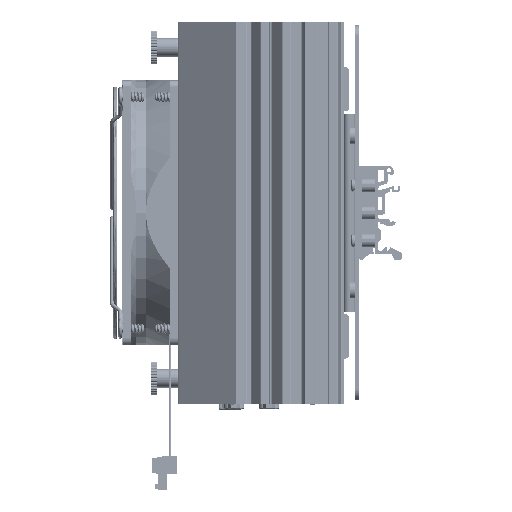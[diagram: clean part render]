
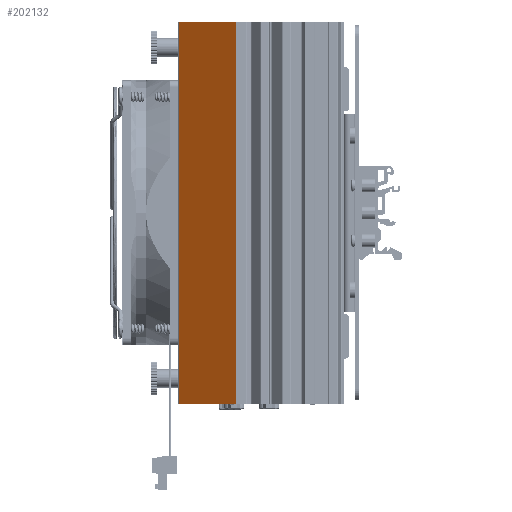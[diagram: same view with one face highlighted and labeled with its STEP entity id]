
A CAD part, left-side view. The second image highlights one B-rep face of the part: STEP entity #202132.
In plain terms, the highlighted planar face has unit normal (-0.819, 0.574, 0).
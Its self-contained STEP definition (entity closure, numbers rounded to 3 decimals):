
#1002 = LINE ( 'NONE', #2692, #369245 ) ;
#2692 = CARTESIAN_POINT ( 'NONE',  ( -120.999, 48.992, 86.5 ) ) ;
#26775 = ORIENTED_EDGE ( 'NONE', *, *, #227812, .T. ) ;
#44898 = CARTESIAN_POINT ( 'NONE',  ( -120.999, 48.992, -86.5 ) ) ;
#63354 = ORIENTED_EDGE ( 'NONE', *, *, #331432, .T. ) ;
#78958 = CARTESIAN_POINT ( 'NONE',  ( -122.022, 47.53, -86.5 ) ) ;
#118128 = LINE ( 'NONE', #78958, #574147 ) ;
#129599 = CARTESIAN_POINT ( 'NONE',  ( -102.947, 74.772, -86.5 ) ) ;
#166738 = AXIS2_PLACEMENT_3D ( 'NONE', #237492, #379377, #607727 ) ;
#175608 = DIRECTION ( 'NONE',  ( -0.574, -0.819, 0. ) ) ;
#190243 = PLANE ( 'NONE',  #166738 ) ;
#202132 = ADVANCED_FACE ( 'NONE', ( #348660 ), #190243, .F. ) ;
#205817 = EDGE_LOOP ( 'NONE', ( #63354, #268349, #417042, #26775 ) ) ;
#220813 = VERTEX_POINT ( 'NONE', #456024 ) ;
#227812 = EDGE_CURVE ( 'NONE', #597340, #521160, #359267, .T. ) ;
#231092 = DIRECTION ( 'NONE',  ( 0., 0., 1. ) ) ;
#237492 = CARTESIAN_POINT ( 'NONE',  ( -122.022, 47.53, 86.5 ) ) ;
#251227 = DIRECTION ( 'NONE',  ( -0.574, -0.819, 0. ) ) ;
#266801 = CARTESIAN_POINT ( 'NONE',  ( -102.947, 74.772, 86.5 ) ) ;
#268349 = ORIENTED_EDGE ( 'NONE', *, *, #490690, .T. ) ;
#291813 = DIRECTION ( 'NONE',  ( 0., 0., -1. ) ) ;
#296482 = VERTEX_POINT ( 'NONE', #44898 ) ;
#331432 = EDGE_CURVE ( 'NONE', #521160, #296482, #118128, .T. ) ;
#333087 = CARTESIAN_POINT ( 'NONE',  ( -102.947, 74.772, 86.5 ) ) ;
#348660 = FACE_OUTER_BOUND ( 'NONE', #205817, .T. ) ;
#359267 = LINE ( 'NONE', #333087, #425285 ) ;
#369245 = VECTOR ( 'NONE', #231092, 1000. ) ;
#372647 = LINE ( 'NONE', #491774, #446384 ) ;
#379377 = DIRECTION ( 'NONE',  ( 0.819, -0.574, 0. ) ) ;
#380919 = EDGE_CURVE ( 'NONE', #597340, #220813, #372647, .T. ) ;
#417042 = ORIENTED_EDGE ( 'NONE', *, *, #380919, .F. ) ;
#425285 = VECTOR ( 'NONE', #291813, 1000. ) ;
#446384 = VECTOR ( 'NONE', #251227, 1000. ) ;
#456024 = CARTESIAN_POINT ( 'NONE',  ( -120.999, 48.992, 86.5 ) ) ;
#490690 = EDGE_CURVE ( 'NONE', #296482, #220813, #1002, .T. ) ;
#491774 = CARTESIAN_POINT ( 'NONE',  ( -122.022, 47.53, 86.5 ) ) ;
#521160 = VERTEX_POINT ( 'NONE', #129599 ) ;
#574147 = VECTOR ( 'NONE', #175608, 1000. ) ;
#597340 = VERTEX_POINT ( 'NONE', #266801 ) ;
#607727 = DIRECTION ( 'NONE',  ( 0.574, 0.819, 0. ) ) ;
